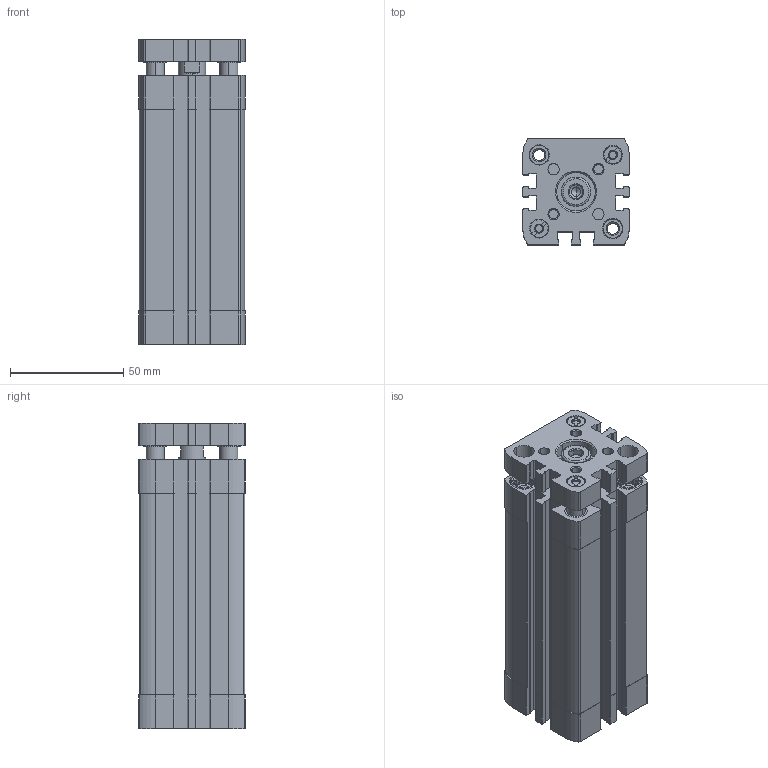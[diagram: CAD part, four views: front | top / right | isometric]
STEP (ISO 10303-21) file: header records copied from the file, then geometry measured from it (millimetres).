
FILE_DESCRIPTION (( 'STEP AP203' ), '1' );
FILE_NAME ('CCNG32-75.STEP', '2017-04-13T18:45:02', ( '' ), ( '' ), 'SwSTEP 2.0', 'SolidWorks 2016', '' );
FILE_SCHEMA (( 'CONFIG_CONTROL_DESIGN' ));
Length unit declared in the file: millimetre
Products named in the file (3): CCNG-32-75---(Z); CCNG-32-75--(KS); CCNG32-75
Assembly tree (2 placements, depth 2):
  CCNG32-75
    CCNG-32-75---(Z)
    CCNG-32-75--(KS)
Bounding box: 47 x 47 x 135 mm (x, y, z)
Volume: 183195.3 mm3; surface area: 78673.2 mm2
Topology: 2 solids, 4 shells, 715 faces, 1922 edges, 1257 vertices
Faces by surface type: plane 363, cylinder 274, cone 72, bspline 6
Entity records: 23115 total; most frequent: CARTESIAN_POINT 4433, DIRECTION 3960, ORIENTED_EDGE 3840, EDGE_CURVE 1920, AXIS2_PLACEMENT_3D 1460, VERTEX_POINT 1257, LINE 1040, VECTOR 1040
